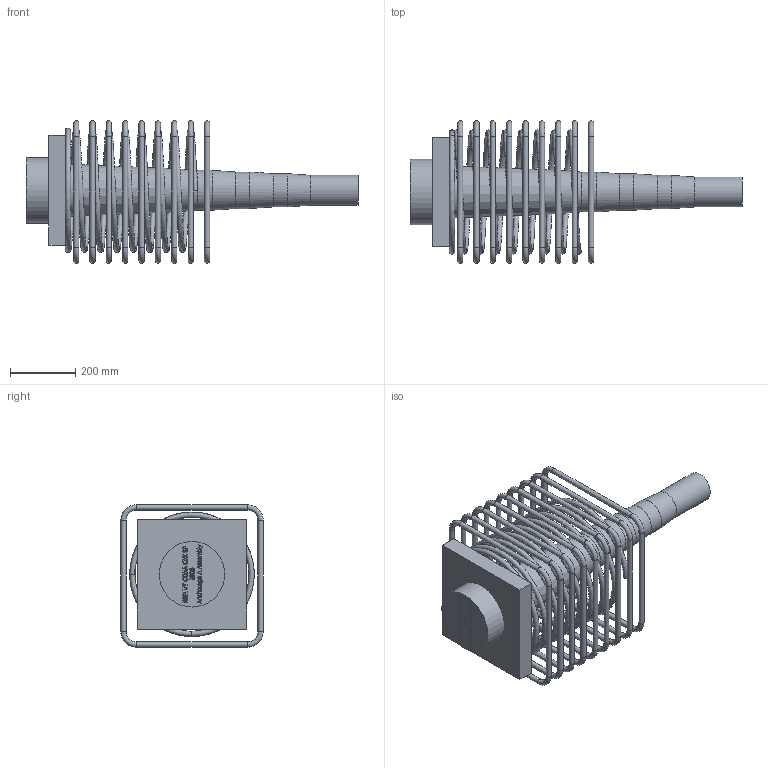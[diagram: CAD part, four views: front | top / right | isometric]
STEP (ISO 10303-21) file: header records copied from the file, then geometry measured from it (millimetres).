
FILE_DESCRIPTION(/* description */ (''),/* implementation_level */ '2;1');
FILE_NAME(/* name */ 'Z:\04 Publications\05 Give-out\BBR\6_3D_Models\BBR VT CONA CMI\BBR VT CONA CMI SP\01906\BBR VT CONA CMI SP 1906_Anchorage A Assembly_CS-34,28.stp',/* time_stamp */ '2017-05-05T15:49:41+02:00',/* author */ ('IP'),/* organization */ (''),/* preprocessor_version */ 'ST-DEVELOPER v16.1',/* originating_system */ 'Autodesk Inventor 2016',/* authorisation */ '');
FILE_SCHEMA (('AUTOMOTIVE_DESIGN { 1 0 10303 214 3 1 1 }'));
Length unit declared in the file: millimetre
Products named in the file (1): BBR VT CONA CMI SP 1906_Anchorage A Assembly_CS-34,28
Bounding box: 1014.1 x 435 x 435 mm (x, y, z)
Volume: 23274664.2 mm3; surface area: 1877151.1 mm2
Topology: 11 solids, 11 shells, 699 faces, 1838 edges, 1199 vertices
Faces by surface type: plane 314, bspline 302, torus 41, cylinder 41, cone 1
Full cylindrical faces by diameter (mm): 16 x36, 91.725 x1, 101.793 x1, 111.862 x1, 121.932 x1, 200 x1
Entity records: 26827 total; most frequent: CARTESIAN_POINT 11179, ORIENTED_EDGE 3512, DIRECTION 2035, EDGE_CURVE 1753, VERTEX_POINT 1197, LINE 1057, VECTOR 1057, EDGE_LOOP 843
